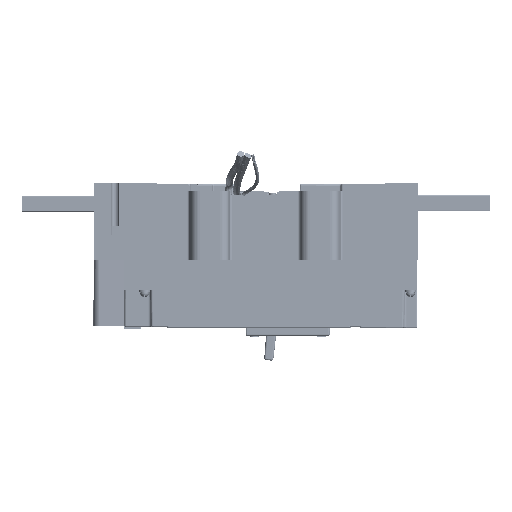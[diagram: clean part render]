
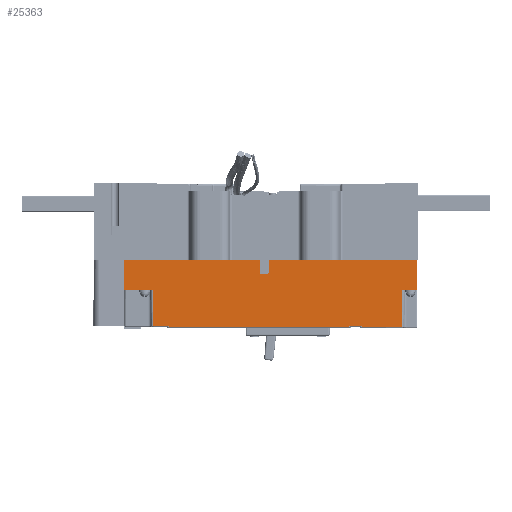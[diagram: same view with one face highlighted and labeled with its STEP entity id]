
A CAD part, left-side view. The second image highlights one B-rep face of the part: STEP entity #25363.
In plain terms, the highlighted planar face has unit normal (-1, 0, 0).
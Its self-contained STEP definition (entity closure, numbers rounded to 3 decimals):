
#25230 = ORIENTED_EDGE ( 'NONE', *, *, #25287, .T. ) ;
#25282 = VERTEX_POINT ( 'NONE', #156480 ) ;
#25287 = EDGE_CURVE ( 'NONE', #25288, #25282, #156462, .T. ) ;
#25288 = VERTEX_POINT ( 'NONE', #156455 ) ;
#25304 = ORIENTED_EDGE ( 'NONE', *, *, #202516, .T. ) ;
#25307 = ORIENTED_EDGE ( 'NONE', *, *, #25309, .T. ) ;
#25309 = EDGE_CURVE ( 'NONE', #202624, #25311, #156720, .T. ) ;
#25311 = VERTEX_POINT ( 'NONE', #156705 ) ;
#25313 = ORIENTED_EDGE ( 'NONE', *, *, #25315, .T. ) ;
#25315 = EDGE_CURVE ( 'NONE', #25311, #25288, #156688, .T. ) ;
#25317 = ORIENTED_EDGE ( 'NONE', *, *, #25319, .T. ) ;
#25319 = EDGE_CURVE ( 'NONE', #25404, #25321, #156670, .T. ) ;
#25321 = VERTEX_POINT ( 'NONE', #156663 ) ;
#25324 = ORIENTED_EDGE ( 'NONE', *, *, #25326, .T. ) ;
#25326 = EDGE_CURVE ( 'NONE', #25321, #25328, #156636, .T. ) ;
#25328 = VERTEX_POINT ( 'NONE', #156630 ) ;
#25330 = ORIENTED_EDGE ( 'NONE', *, *, #25332, .T. ) ;
#25332 = EDGE_CURVE ( 'NONE', #25328, #25333, #156793, .T. ) ;
#25333 = VERTEX_POINT ( 'NONE', #156785 ) ;
#25334 = ORIENTED_EDGE ( 'NONE', *, *, #25429, .T. ) ;
#25362 = EDGE_CURVE ( 'NONE', #25282, #25449, #156960, .T. ) ;
#25363 = ADVANCED_FACE ( 'NONE', ( #156953 ), #156949, .T. ) ;
#25364 = EDGE_LOOP ( 'NONE', ( #25367, #25370, #25374, #25401, #25317, #25324, #25330, #25334, #25433, #25437, #25304, #25307, #25313, #25230 ) ) ;
#25367 = ORIENTED_EDGE ( 'NONE', *, *, #25362, .T. ) ;
#25370 = ORIENTED_EDGE ( 'NONE', *, *, #25372, .T. ) ;
#25372 = EDGE_CURVE ( 'NONE', #25449, #25373, #156914, .T. ) ;
#25373 = VERTEX_POINT ( 'NONE', #156905 ) ;
#25374 = ORIENTED_EDGE ( 'NONE', *, *, #25397, .T. ) ;
#25397 = EDGE_CURVE ( 'NONE', #25373, #25398, #156988, .T. ) ;
#25398 = VERTEX_POINT ( 'NONE', #157163 ) ;
#25401 = ORIENTED_EDGE ( 'NONE', *, *, #25403, .T. ) ;
#25403 = EDGE_CURVE ( 'NONE', #25398, #25404, #157141, .T. ) ;
#25404 = VERTEX_POINT ( 'NONE', #157131 ) ;
#25429 = EDGE_CURVE ( 'NONE', #25333, #25430, #157170, .T. ) ;
#25430 = VERTEX_POINT ( 'NONE', #157164 ) ;
#25433 = ORIENTED_EDGE ( 'NONE', *, *, #25435, .T. ) ;
#25435 = EDGE_CURVE ( 'NONE', #25430, #25436, #157333, .T. ) ;
#25436 = VERTEX_POINT ( 'NONE', #157324 ) ;
#25437 = ORIENTED_EDGE ( 'NONE', *, *, #25439, .T. ) ;
#25439 = EDGE_CURVE ( 'NONE', #25436, #202623, #157307, .T. ) ;
#25449 = VERTEX_POINT ( 'NONE', #157428 ) ;
#57111 = DIRECTION ( 'NONE',  ( 0., -1., 0. ) ) ;
#57112 = VECTOR ( 'NONE', #57111, 1000. ) ;
#57113 = CARTESIAN_POINT ( 'NONE',  ( -152.632, -51.968, -142.437 ) ) ;
#57114 = LINE ( 'NONE', #57113, #57112 ) ;
#57391 = CARTESIAN_POINT ( 'NONE',  ( -152.632, -66.758, -142.437 ) ) ;
#57410 = CARTESIAN_POINT ( 'NONE',  ( -152.632, -49.968, -142.437 ) ) ;
#156455 = CARTESIAN_POINT ( 'NONE',  ( -152.632, 260.557, -108.087 ) ) ;
#156458 = DIRECTION ( 'NONE',  ( 0., 0., -1. ) ) ;
#156459 = VECTOR ( 'NONE', #156458, 1000. ) ;
#156460 = CARTESIAN_POINT ( 'NONE',  ( -152.632, 260.557, -108.087 ) ) ;
#156462 = LINE ( 'NONE', #156460, #156459 ) ;
#156480 = CARTESIAN_POINT ( 'NONE',  ( -152.632, 260.557, -142.437 ) ) ;
#156630 = CARTESIAN_POINT ( 'NONE',  ( -152.632, 9.767, -181.737 ) ) ;
#156633 = DIRECTION ( 'NONE',  ( 0., 0., 1. ) ) ;
#156634 = VECTOR ( 'NONE', #156633, 1000. ) ;
#156635 = CARTESIAN_POINT ( 'NONE',  ( -152.632, 9.767, -183.737 ) ) ;
#156636 = LINE ( 'NONE', #156635, #156634 ) ;
#156663 = CARTESIAN_POINT ( 'NONE',  ( -152.632, 9.767, -182.937 ) ) ;
#156667 = DIRECTION ( 'NONE',  ( 0., -1., 0. ) ) ;
#156668 = VECTOR ( 'NONE', #156667, 1000. ) ;
#156669 = CARTESIAN_POINT ( 'NONE',  ( -152.632, -2.608, -182.937 ) ) ;
#156670 = LINE ( 'NONE', #156669, #156668 ) ;
#156682 = DIRECTION ( 'NONE',  ( 0., 1., 0. ) ) ;
#156684 = VECTOR ( 'NONE', #156682, 1000. ) ;
#156687 = CARTESIAN_POINT ( 'NONE',  ( -152.632, -66.758, -108.087 ) ) ;
#156688 = LINE ( 'NONE', #156687, #156684 ) ;
#156705 = CARTESIAN_POINT ( 'NONE',  ( -152.632, -66.758, -108.087 ) ) ;
#156711 = DIRECTION ( 'NONE',  ( 0., 0., 1. ) ) ;
#156713 = VECTOR ( 'NONE', #156711, 1000. ) ;
#156718 = CARTESIAN_POINT ( 'NONE',  ( -152.632, -66.758, -142.437 ) ) ;
#156720 = LINE ( 'NONE', #156718, #156713 ) ;
#156785 = CARTESIAN_POINT ( 'NONE',  ( -152.632, -4.608, -181.737 ) ) ;
#156788 = DIRECTION ( 'NONE',  ( 0., -1., 0. ) ) ;
#156789 = VECTOR ( 'NONE', #156788, 1000. ) ;
#156791 = CARTESIAN_POINT ( 'NONE',  ( -152.632, -2.608, -181.737 ) ) ;
#156793 = LINE ( 'NONE', #156791, #156789 ) ;
#156905 = CARTESIAN_POINT ( 'NONE',  ( -152.632, 228.756, -181.737 ) ) ;
#156908 = DIRECTION ( 'NONE',  ( 0., -0.009, -1. ) ) ;
#156910 = VECTOR ( 'NONE', #156908, 1000. ) ;
#156912 = CARTESIAN_POINT ( 'NONE',  ( -152.632, 228.739, -183.719 ) ) ;
#156914 = LINE ( 'NONE', #156912, #156910 ) ;
#156938 = DIRECTION ( 'NONE',  ( 0., 1., 0. ) ) ;
#156940 = DIRECTION ( 'NONE',  ( -1., 0., 0. ) ) ;
#156942 = CARTESIAN_POINT ( 'NONE',  ( -152.632, -2.608, -184.937 ) ) ;
#156943 = AXIS2_PLACEMENT_3D ( 'NONE', #156942, #156940, #156938 ) ;
#156949 = PLANE ( 'NONE',  #156943 ) ;
#156953 = FACE_OUTER_BOUND ( 'NONE', #25364, .T. ) ;
#156955 = DIRECTION ( 'NONE',  ( 0., -1., 0. ) ) ;
#156958 = VECTOR ( 'NONE', #156955, 1000. ) ;
#156959 = CARTESIAN_POINT ( 'NONE',  ( -152.632, 260.557, -142.437 ) ) ;
#156960 = LINE ( 'NONE', #156959, #156958 ) ;
#156983 = DIRECTION ( 'NONE',  ( 0., -1., 0. ) ) ;
#156984 = VECTOR ( 'NONE', #156983, 1000. ) ;
#156987 = CARTESIAN_POINT ( 'NONE',  ( -152.632, 212.957, -181.737 ) ) ;
#156988 = LINE ( 'NONE', #156987, #156984 ) ;
#157131 = CARTESIAN_POINT ( 'NONE',  ( -152.632, 210.957, -182.937 ) ) ;
#157133 = DIRECTION ( 'NONE',  ( 0., 0., -1. ) ) ;
#157135 = VECTOR ( 'NONE', #157133, 1000. ) ;
#157138 = CARTESIAN_POINT ( 'NONE',  ( -152.632, 210.957, -184.937 ) ) ;
#157141 = LINE ( 'NONE', #157138, #157135 ) ;
#157163 = CARTESIAN_POINT ( 'NONE',  ( -152.632, 210.957, -181.737 ) ) ;
#157164 = CARTESIAN_POINT ( 'NONE',  ( -152.632, -4.608, -182.937 ) ) ;
#157165 = DIRECTION ( 'NONE',  ( 0., 0., -1. ) ) ;
#157166 = VECTOR ( 'NONE', #157165, 1000. ) ;
#157169 = CARTESIAN_POINT ( 'NONE',  ( -152.632, -4.608, -184.937 ) ) ;
#157170 = LINE ( 'NONE', #157169, #157166 ) ;
#157300 = DIRECTION ( 'NONE',  ( 0., -0.009, 1. ) ) ;
#157303 = VECTOR ( 'NONE', #157300, 1000. ) ;
#157306 = CARTESIAN_POINT ( 'NONE',  ( -152.632, -49.968, -142.419 ) ) ;
#157307 = LINE ( 'NONE', #157306, #157303 ) ;
#157324 = CARTESIAN_POINT ( 'NONE',  ( -152.632, -49.615, -182.937 ) ) ;
#157326 = DIRECTION ( 'NONE',  ( 0., -1., 0. ) ) ;
#157329 = VECTOR ( 'NONE', #157326, 1000. ) ;
#157332 = CARTESIAN_POINT ( 'NONE',  ( -152.632, -2.608, -182.937 ) ) ;
#157333 = LINE ( 'NONE', #157332, #157329 ) ;
#157428 = CARTESIAN_POINT ( 'NONE',  ( -152.632, 229.099, -142.437 ) ) ;
#202516 = EDGE_CURVE ( 'NONE', #202623, #202624, #57114, .T. ) ;
#202623 = VERTEX_POINT ( 'NONE', #57410 ) ;
#202624 = VERTEX_POINT ( 'NONE', #57391 ) ;
